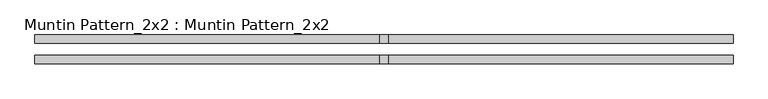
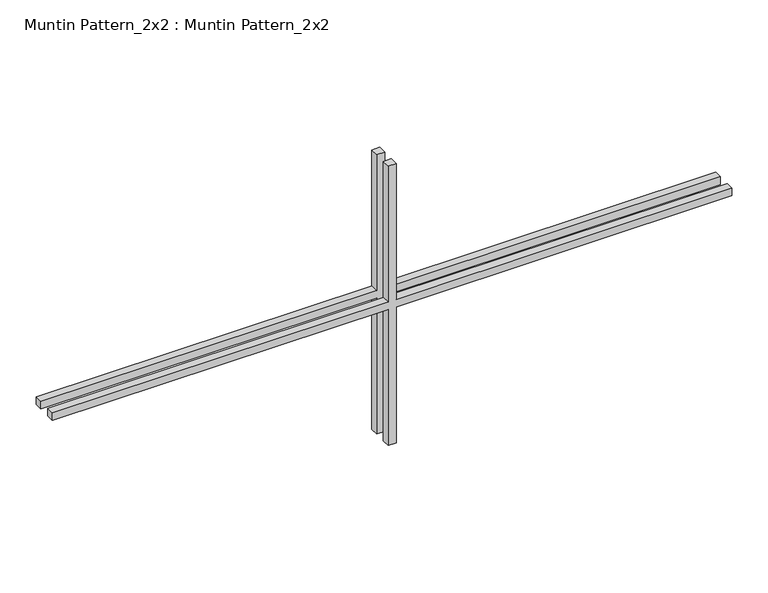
"""IFC4 building model written with IfcOpenShell, lengths in millimetres: proxy geometry, Muntin Pattern_2x2 : Muntin Pattern_2x2."""

from ifc_helpers import new_model, si_unit, frame, origin, place, context, project, spatial, polyline, outline, extrude, source, transform, mapped, element, save


def muntin_pattern_2x2_muntin_pattern_2x2_770224b8(model_context):
    return source(origin(), model_context, "Body", "SweptSolid", [
        extrude(outline(polyline([(241.3, -6.35), (241.3, -539.75), (228.6, -539.75), (228.6, -6.35), (0.0, -6.35), (0.0, 6.35), (228.6, 6.35), (228.6, 539.75), (241.3, 539.75), (241.3, 6.35), (469.9, 6.35), (469.9, -6.35), (241.3, -6.35)])), frame((0.0, -22.225, 0.0), z_axis=(0.0, 1.0, 0.0), x_axis=(0.0, 0.0, 1.0)), (0.0, 0.0, 1.0), 12.7),
        extrude(outline(polyline([(241.3, -6.35), (241.3, -539.75), (228.6, -539.75), (228.6, -6.35), (0.0, -6.35), (0.0, 6.35), (228.6, 6.35), (228.6, 539.75), (241.3, 539.75), (241.3, 6.35), (469.9, 6.35), (469.9, -6.35), (241.3, -6.35)])), frame((0.0, 9.525, 0.0), z_axis=(0.0, 1.0, 0.0), x_axis=(0.0, 0.0, 1.0)), (0.0, 0.0, 1.0), 12.7),
    ])


if __name__ == "__main__":
    model = new_model("IFC4")
    model_context = context("Model", 3, world=origin())
    ifc_project = project(units=[si_unit("LENGTHUNIT", "METRE", prefix="MILLI")], contexts=[model_context])
    site = spatial("IfcSite", under=ifc_project)
    building = spatial("IfcBuilding", under=site)
    placement = place(None, origin())
    muntin_pattern_2x2_muntin_pattern_2x2_shape = muntin_pattern_2x2_muntin_pattern_2x2_770224b8(model_context)
    element("IfcBuildingElementProxy", 1, Name="Muntin Pattern_2x2 : Muntin Pattern_2x2", ObjectType="Muntin Pattern_2x2 : Muntin Pattern_2x2", at=placement, inside=building, context=model_context, shape_type="MappedRepresentation", body=[
        mapped(muntin_pattern_2x2_muntin_pattern_2x2_shape, transform((0.0, 0.0, 0.0), x_axis=(1.0, 0.0, 0.0), y_axis=(0.0, 1.0, 0.0), z_axis=(0.0, 0.0, 1.0))),
    ])
    save(model, "model.ifc")
